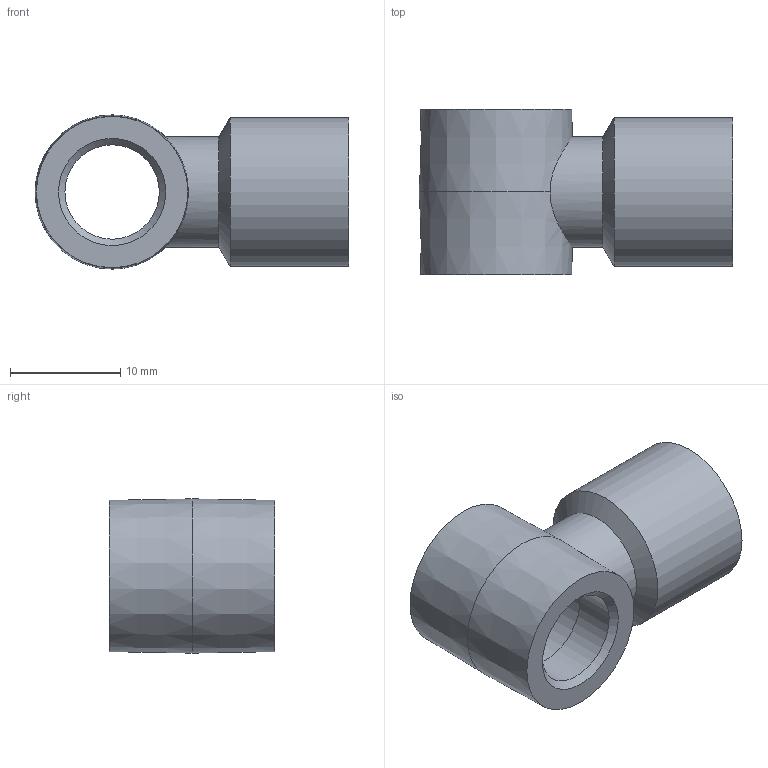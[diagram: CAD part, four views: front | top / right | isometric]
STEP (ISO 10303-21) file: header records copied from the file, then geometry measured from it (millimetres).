
FILE_DESCRIPTION(('STEP AP214'),'1');
FILE_NAME('CA.01.08.004.stp','2019-06-06T11:26:58',(' '),(' '),'Spatial InterOp 3D',' ',' ');
FILE_SCHEMA(('AUTOMOTIVE_DESIGN { 1 0 10303 214 1 1 1 1 }'));
Length unit declared in the file: millimetre
Products named in the file (1): CA.01.08.004
Bounding box: 28.5 x 15 x 14 mm (x, y, z)
Volume: 2503 mm3; surface area: 2330.2 mm2
Topology: 1 solids, 1 shells, 21 faces, 45 edges, 30 vertices
Faces by surface type: cone 8, cylinder 7, plane 6
Full cylindrical faces by diameter (mm): 5.5 x1, 8.566 x3, 9.728 x1, 10 x1, 13.5 x1
Entity records: 756 total; most frequent: CARTESIAN_POINT 210, DIRECTION 82, ORIENTED_EDGE 46, AXIS2_PLACEMENT_3D 41, EDGE_LOOP 40, FACE_OUTER_BOUND 28, EDGE_CURVE 23, STYLED_ITEM 21
